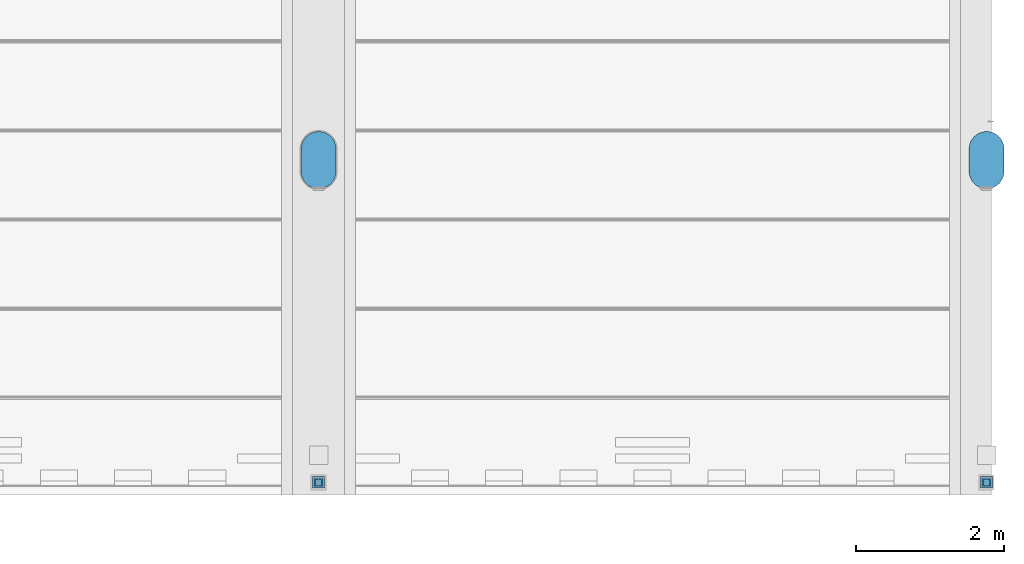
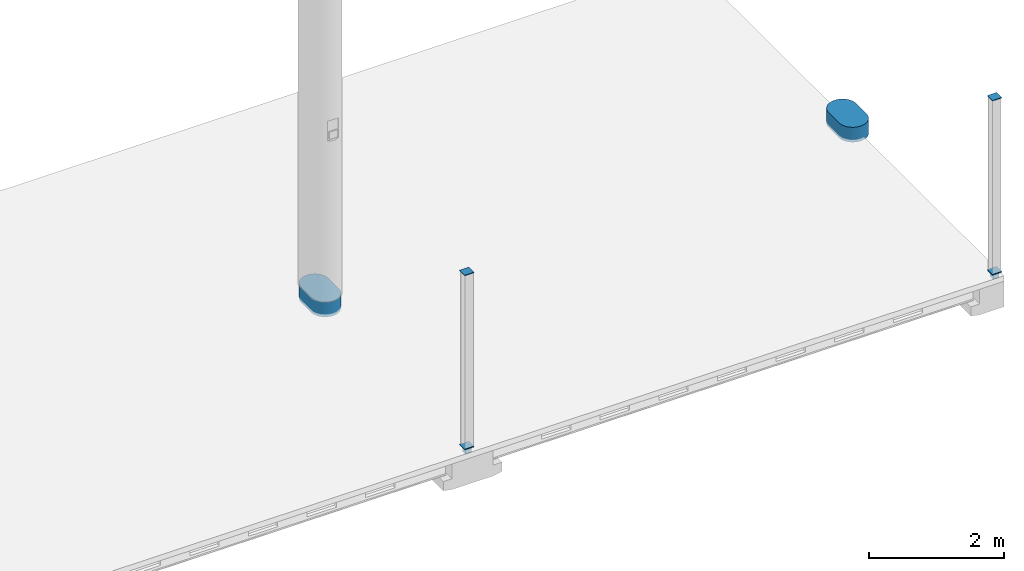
# One storey, part 5 of 15: 8 columns.
"""IFC2X3 building model written with IfcOpenShell, lengths in millimetres."""

from ifc_helpers import new_model, entity, si_unit, converted_unit, derived_unit, direction, frame, origin_with_axes, place, context, subcontext, project, spatial, faceted_brep, material, type_object, element, save


model = new_model("IFC2X3")

# Units and contexts
model_context = context("Model", 3, precision=0.01, world=frame((0.0, 4.29681676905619e-09, 0.0)), true_north=direction((4.01073788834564e-13, 1.0)))
plan_context = context("Plan", 3, precision=0.01, world=frame((0.0, 4.29681676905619e-09, 0.0)), true_north=direction((4.01073788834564e-13, 1.0)))
body_context = subcontext(model_context, "Body", "Model", "MODEL_VIEW")
ifc_project = project(units=[converted_unit("PLANEANGLEUNIT", "DEGREE", entity("IfcPositiveLengthMeasure", 0.0174532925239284), si_unit("PLANEANGLEUNIT", "RADIAN"), dimensions=[0, 0, 0, 0, 0, 0, 0]), si_unit("AREAUNIT", "SQUARE_METRE"), si_unit("LENGTHUNIT", "METRE", prefix="MILLI"), si_unit("MASSUNIT", "GRAM", prefix="KILO"), si_unit("POWERUNIT", "WATT"), si_unit("PRESSUREUNIT", "PASCAL", prefix="KILO"), si_unit("FORCEUNIT", "NEWTON", prefix="KILO"), si_unit("ELECTRICVOLTAGEUNIT", "VOLT"), si_unit("ELECTRICCURRENTUNIT", "AMPERE"), si_unit("THERMODYNAMICTEMPERATUREUNIT", "DEGREE_CELSIUS"), si_unit("TIMEUNIT", "SECOND"), si_unit("VOLUMEUNIT", "CUBIC_METRE"), derived_unit("LINEARVELOCITYUNIT", [(si_unit("LENGTHUNIT", "METRE"), 1), (si_unit("TIMEUNIT", "SECOND"), -1)]), derived_unit("VOLUMETRICFLOWRATEUNIT", [(si_unit("VOLUMEUNIT", "CUBIC_METRE"), 1), (si_unit("TIMEUNIT", "SECOND"), -1)]), derived_unit("THERMALTRANSMITTANCEUNIT", [(si_unit("POWERUNIT", "WATT"), 1), (si_unit("THERMODYNAMICTEMPERATUREUNIT", "KELVIN"), -1), (si_unit("AREAUNIT", "SQUARE_METRE"), -1)]), derived_unit("SOUNDPRESSUREUNIT", [(si_unit("PRESSUREUNIT", "PASCAL"), 1)])], contexts=[model_context, plan_context])

# Site, building, storey
site_placement = place(None, frame((0.0, -4.29681676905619e-09, 0.0), z_axis=(0.0, 0.0, 1.0), x_axis=(1.0, 0.0, 0.0)))
site = spatial("IfcSite", under=ifc_project, at=site_placement, Name="Gardermoen", CompositionType="ELEMENT")
building_placement = place(site_placement, frame((0.0, 4.29681676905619e-09, 0.0), z_axis=(0.0, 0.0, 1.0), x_axis=(1.0, 0.0, 0.0)))
building = spatial("IfcBuilding", under=site, at=building_placement, Name="TG", CompositionType="ELEMENT")
storey_placement = place(building_placement, origin_with_axes())
storey = spatial("IfcBuildingStorey", under=building, at=storey_placement, Name="F", CompositionType="ELEMENT", Elevation=0.0)

# Columns
ifc_material_1 = material(Name="STEEL/S355")
column_type_1 = type_object("IfcColumnType", Name="RHS100*5", PredefinedType="NOTDEFINED")
for number, where, z_axis, x_axis in (
    (1, (349000.0, 458358.0, 210030.0), (0.0, -1.0, 0.0), (0.0, 0.0, 1.0)),
    (2, (340000.0, 458358.0, 210030.0), (0.0, -1.0, 0.0), (0.0, 0.0, 1.0)),
):
    element("IfcColumn", number, at=place(storey_placement, frame(where, z_axis=z_axis, x_axis=x_axis)), inside=storey, type_object=column_type_1, material=ifc_material_1, Name="STÅLSØYLE", ObjectType="RHS100*5", context=body_context, shape_type="Brep", body=[
        faceted_brep([(0.0, 45.0, -45.0), (0.0, -45.0, -45.0), (100.0, -45.0, -45.0), (100.0, 45.0, -45.0), (0.0, -45.0, 45.0), (100.0, -45.0, 45.0), (0.0, 45.0, 45.0), (100.0, 45.0, 45.0), (0.0, 50.0, -50.0), (0.0, 50.0, 50.0), (100.0, 50.0, 50.0), (100.0, 50.0, -50.0), (0.0, -50.0, 50.0), (100.0, -50.0, 50.0), (0.0, -50.0, -50.0), (100.0, -50.0, -50.0)], [[[0, 1, 2, 3]], [[1, 4, 5, 2]], [[4, 6, 7, 5]], [[6, 0, 3, 7]], [[8, 9, 10, 11]], [[9, 12, 13, 10]], [[12, 14, 15, 13]], [[14, 8, 11, 15]], [[13, 15, 11, 10], [5, 7, 3, 2]], [[14, 12, 9, 8], [6, 4, 1, 0]]]),
    ])
ifc_material_2 = material(Name="CONCRETE/C45/55")
column_type_2 = type_object("IfcColumnType", Name="AAJOVAL470*770", PredefinedType="NOTDEFINED")
column_1_placement = place(storey_placement, frame((348999.999766, 462700.004375, 210080.0), z_axis=(0.0, -1.0, 0.0), x_axis=(0.0, 0.0, 1.0)))
element("IfcColumn", 3, at=column_1_placement, inside=storey, type_object=column_type_2, material=ifc_material_2, Name="PREFABSØYLE", ObjectType="AAJOVAL470*770", context=body_context, shape_type="Brep", body=[
    faceted_brep([(0.0, 235.0, 150.0), (0.0, 234.153409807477, 169.929392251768), (270.0, 234.153409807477, 169.929392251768), (270.0, 235.0, 150.0), (0.0, 231.619738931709, 189.715192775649), (270.0, 231.619738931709, 189.715192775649), (0.0, 227.417242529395, 209.2148444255), (270.0, 227.417242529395, 209.2148444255), (0.0, 221.576199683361, 228.287851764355), (270.0, 221.576199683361, 228.287851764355), (0.0, 214.138695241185, 246.796793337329), (270.0, 214.138695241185, 246.796793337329), (0.0, 205.158316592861, 264.608311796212), (270.0, 205.158316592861, 264.608311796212), (0.0, 194.699767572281, 281.594074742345), (270.0, 194.699767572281, 281.594074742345), (0.0, 182.83840226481, 297.631699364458), (270.0, 182.83840226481, 297.631699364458), (0.0, 169.659682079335, 312.6056342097), (270.0, 169.659682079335, 312.6056342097), (0.0, 155.25855999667, 326.407991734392), (270.0, 155.25855999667, 326.407991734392), (0.0, 139.738796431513, 338.939325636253), (270.0, 139.738796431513, 338.939325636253), (0.0, 123.212211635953, 350.10934736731), (270.0, 123.212211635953, 350.10934736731), (0.0, 105.797880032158, 359.837576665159), (270.0, 105.797880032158, 359.837576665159), (0.0, 87.6212722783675, 368.053921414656), (270.0, 87.6212722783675, 368.053921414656), (0.0, 68.8133512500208, 374.699182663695), (270.0, 68.8133512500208, 374.699182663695), (0.0, 49.5096284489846, 379.725481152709), (270.0, 49.5096284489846, 379.725481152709), (0.0, 29.8491876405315, 383.096602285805), (270.0, 29.8491876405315, 383.096602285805), (0.0, 9.9736827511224, 384.78825705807), (270.0, 9.9736827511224, 384.78825705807), (0.0, -9.97368275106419, 384.78825705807), (270.0, -9.97368275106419, 384.78825705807), (0.0, -29.8491876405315, 383.096602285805), (270.0, -29.8491876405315, 383.096602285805), (0.0, -49.5096284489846, 379.725481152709), (270.0, -49.5096284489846, 379.725481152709), (0.0, -68.8133512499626, 374.699182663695), (270.0, -68.8133512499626, 374.699182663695), (0.0, -87.6212722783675, 368.053921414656), (270.0, -87.6212722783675, 368.053921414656), (0.0, -105.797880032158, 359.837576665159), (270.0, -105.797880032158, 359.837576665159), (0.0, -123.212211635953, 350.10934736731), (270.0, -123.212211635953, 350.10934736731), (0.0, -139.738796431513, 338.939325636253), (270.0, -139.738796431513, 338.939325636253), (0.0, -155.25855999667, 326.407991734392), (270.0, -155.25855999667, 326.407991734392), (0.0, -169.659682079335, 312.6056342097), (270.0, -169.659682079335, 312.6056342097), (0.0, -182.83840226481, 297.631699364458), (270.0, -182.83840226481, 297.631699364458), (0.0, -194.699767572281, 281.594074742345), (270.0, -194.699767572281, 281.594074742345), (0.0, -205.158316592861, 264.608311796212), (270.0, -205.158316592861, 264.608311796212), (0.0, -214.138695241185, 246.796793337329), (270.0, -214.138695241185, 246.796793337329), (0.0, -221.576199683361, 228.287851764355), (270.0, -221.576199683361, 228.287851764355), (0.0, -227.417242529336, 209.2148444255), (270.0, -227.417242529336, 209.2148444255), (0.0, -231.619738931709, 189.715192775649), (270.0, -231.619738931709, 189.715192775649), (0.0, -234.153409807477, 169.929392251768), (270.0, -234.153409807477, 169.929392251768), (0.0, -235.0, 150.0), (270.0, -235.0, 150.0), (0.0, -235.0, -150.0), (270.0, -235.0, -150.0), (0.0, -234.153409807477, -169.929392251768), (270.0, -234.153409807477, -169.929392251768), (0.0, -231.619738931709, -189.715192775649), (270.0, -231.619738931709, -189.715192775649), (0.0, -227.417242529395, -209.2148444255), (270.0, -227.417242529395, -209.2148444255), (0.0, -221.576199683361, -228.287851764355), (270.0, -221.576199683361, -228.287851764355), (0.0, -214.138695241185, -246.796793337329), (270.0, -214.138695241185, -246.796793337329), (0.0, -205.158316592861, -264.608311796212), (270.0, -205.158316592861, -264.608311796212), (0.0, -194.699767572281, -281.594074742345), (270.0, -194.699767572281, -281.594074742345), (0.0, -182.83840226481, -297.631699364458), (270.0, -182.83840226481, -297.631699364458), (0.0, -169.659682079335, -312.6056342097), (270.0, -169.659682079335, -312.6056342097), (0.0, -155.25855999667, -326.407991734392), (270.0, -155.25855999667, -326.407991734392), (0.0, -139.738796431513, -338.939325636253), (270.0, -139.738796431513, -338.939325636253), (0.0, -123.212211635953, -350.10934736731), (270.0, -123.212211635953, -350.10934736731), (0.0, -105.797880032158, -359.837576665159), (270.0, -105.797880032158, -359.837576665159), (0.0, -87.6212722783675, -368.053921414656), (270.0, -87.6212722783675, -368.053921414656), (0.0, -68.8133512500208, -374.699182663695), (270.0, -68.8133512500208, -374.699182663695), (0.0, -49.5096284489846, -379.725481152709), (270.0, -49.5096284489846, -379.725481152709), (0.0, -29.8491876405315, -383.096602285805), (270.0, -29.8491876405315, -383.096602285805), (0.0, -9.9736827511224, -384.78825705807), (270.0, -9.9736827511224, -384.78825705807), (0.0, 9.97368275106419, -384.78825705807), (270.0, 9.97368275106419, -384.78825705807), (0.0, 29.8491876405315, -383.096602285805), (270.0, 29.8491876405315, -383.096602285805), (0.0, 49.5096284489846, -379.725481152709), (270.0, 49.5096284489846, -379.725481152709), (0.0, 68.8133512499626, -374.699182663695), (270.0, 68.8133512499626, -374.699182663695), (0.0, 87.6212722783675, -368.053921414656), (270.0, 87.6212722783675, -368.053921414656), (0.0, 105.797880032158, -359.837576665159), (270.0, 105.797880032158, -359.837576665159), (0.0, 123.212211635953, -350.10934736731), (270.0, 123.212211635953, -350.10934736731), (0.0, 139.738796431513, -338.939325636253), (270.0, 139.738796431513, -338.939325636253), (0.0, 155.25855999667, -326.407991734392), (270.0, 155.25855999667, -326.407991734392), (0.0, 169.659682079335, -312.6056342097), (270.0, 169.659682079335, -312.6056342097), (0.0, 182.83840226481, -297.631699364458), (270.0, 182.83840226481, -297.631699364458), (0.0, 194.699767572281, -281.594074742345), (270.0, 194.699767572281, -281.594074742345), (0.0, 205.158316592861, -264.608311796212), (270.0, 205.158316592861, -264.608311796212), (0.0, 214.138695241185, -246.796793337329), (270.0, 214.138695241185, -246.796793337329), (0.0, 221.576199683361, -228.287851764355), (270.0, 221.576199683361, -228.287851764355), (0.0, 227.417242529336, -209.2148444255), (270.0, 227.417242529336, -209.2148444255), (0.0, 231.619738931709, -189.715192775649), (270.0, 231.619738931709, -189.715192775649), (0.0, 234.153409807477, -169.929392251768), (270.0, 234.153409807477, -169.929392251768), (0.0, 235.0, -150.0), (270.0, 235.0, -150.0)], [[[0, 1, 2, 3]], [[1, 4, 5, 2]], [[4, 6, 7, 5]], [[6, 8, 9, 7]], [[8, 10, 11, 9]], [[10, 12, 13, 11]], [[12, 14, 15, 13]], [[14, 16, 17, 15]], [[16, 18, 19, 17]], [[18, 20, 21, 19]], [[20, 22, 23, 21]], [[22, 24, 25, 23]], [[24, 26, 27, 25]], [[26, 28, 29, 27]], [[28, 30, 31, 29]], [[30, 32, 33, 31]], [[32, 34, 35, 33]], [[34, 36, 37, 35]], [[36, 38, 39, 37]], [[38, 40, 41, 39]], [[40, 42, 43, 41]], [[42, 44, 45, 43]], [[44, 46, 47, 45]], [[46, 48, 49, 47]], [[48, 50, 51, 49]], [[50, 52, 53, 51]], [[52, 54, 55, 53]], [[54, 56, 57, 55]], [[56, 58, 59, 57]], [[58, 60, 61, 59]], [[60, 62, 63, 61]], [[62, 64, 65, 63]], [[64, 66, 67, 65]], [[66, 68, 69, 67]], [[68, 70, 71, 69]], [[70, 72, 73, 71]], [[72, 74, 75, 73]], [[74, 76, 77, 75]], [[76, 78, 79, 77]], [[78, 80, 81, 79]], [[80, 82, 83, 81]], [[82, 84, 85, 83]], [[84, 86, 87, 85]], [[86, 88, 89, 87]], [[88, 90, 91, 89]], [[90, 92, 93, 91]], [[92, 94, 95, 93]], [[94, 96, 97, 95]], [[96, 98, 99, 97]], [[98, 100, 101, 99]], [[100, 102, 103, 101]], [[102, 104, 105, 103]], [[104, 106, 107, 105]], [[106, 108, 109, 107]], [[108, 110, 111, 109]], [[110, 112, 113, 111]], [[112, 114, 115, 113]], [[114, 116, 117, 115]], [[116, 118, 119, 117]], [[118, 120, 121, 119]], [[120, 122, 123, 121]], [[122, 124, 125, 123]], [[124, 126, 127, 125]], [[126, 128, 129, 127]], [[128, 130, 131, 129]], [[130, 132, 133, 131]], [[132, 134, 135, 133]], [[134, 136, 137, 135]], [[136, 138, 139, 137]], [[138, 140, 141, 139]], [[140, 142, 143, 141]], [[142, 144, 145, 143]], [[144, 146, 147, 145]], [[146, 148, 149, 147]], [[148, 150, 151, 149]], [[150, 0, 3, 151]], [[5, 7, 9, 11, 13, 15, 17, 19, 21, 23, 25, 27, 29, 31, 33, 35, 37, 39, 41, 43, 45, 47, 49, 51, 53, 55, 57, 59, 61, 63, 65, 67, 69, 71, 73, 75, 77, 79, 81, 83, 85, 87, 89, 91, 93, 95, 97, 99, 101, 103, 105, 107, 109, 111, 113, 115, 117, 119, 121, 123, 125, 127, 129, 131, 133, 135, 137, 139, 141, 143, 145, 147, 149, 151, 3, 2]], [[150, 148, 146, 144, 142, 140, 138, 136, 134, 132, 130, 128, 126, 124, 122, 120, 118, 116, 114, 112, 110, 108, 106, 104, 102, 100, 98, 96, 94, 92, 90, 88, 86, 84, 82, 80, 78, 76, 74, 72, 70, 68, 66, 64, 62, 60, 58, 56, 54, 52, 50, 48, 46, 44, 42, 40, 38, 36, 34, 32, 30, 28, 26, 24, 22, 20, 18, 16, 14, 12, 10, 8, 6, 4, 1, 0]]]),
])
column_2_placement = place(storey_placement, frame((339999.999766, 462700.004375, 210080.0), z_axis=(0.0, -1.0, 0.0), x_axis=(0.0, 0.0, 1.0)))
element("IfcColumn", 4, at=column_2_placement, inside=storey, type_object=column_type_2, material=ifc_material_2, Name="PREFABSØYLE", ObjectType="AAJOVAL470*770", context=body_context, shape_type="Brep", body=[
    faceted_brep([(0.0, 235.0, 150.0), (0.0, 234.153409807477, 169.929392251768), (270.0, 234.153409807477, 169.929392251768), (270.0, 235.0, 150.0), (0.0, 231.619738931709, 189.715192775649), (270.0, 231.619738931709, 189.715192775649), (0.0, 227.417242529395, 209.2148444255), (270.0, 227.417242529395, 209.2148444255), (0.0, 221.576199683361, 228.287851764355), (270.0, 221.576199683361, 228.287851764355), (0.0, 214.138695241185, 246.796793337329), (270.0, 214.138695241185, 246.796793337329), (0.0, 205.158316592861, 264.608311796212), (270.0, 205.158316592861, 264.608311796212), (0.0, 194.699767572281, 281.594074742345), (270.0, 194.699767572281, 281.594074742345), (0.0, 182.83840226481, 297.631699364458), (270.0, 182.83840226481, 297.631699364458), (0.0, 169.659682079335, 312.6056342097), (270.0, 169.659682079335, 312.6056342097), (0.0, 155.25855999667, 326.407991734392), (270.0, 155.25855999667, 326.407991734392), (0.0, 139.738796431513, 338.939325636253), (270.0, 139.738796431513, 338.939325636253), (0.0, 123.212211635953, 350.10934736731), (270.0, 123.212211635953, 350.10934736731), (0.0, 105.797880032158, 359.837576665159), (270.0, 105.797880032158, 359.837576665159), (0.0, 87.6212722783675, 368.053921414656), (270.0, 87.6212722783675, 368.053921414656), (0.0, 68.8133512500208, 374.699182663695), (270.0, 68.8133512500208, 374.699182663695), (0.0, 49.5096284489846, 379.725481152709), (270.0, 49.5096284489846, 379.725481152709), (0.0, 29.8491876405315, 383.096602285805), (270.0, 29.8491876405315, 383.096602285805), (0.0, 9.9736827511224, 384.78825705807), (270.0, 9.9736827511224, 384.78825705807), (0.0, -9.97368275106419, 384.78825705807), (270.0, -9.97368275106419, 384.78825705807), (0.0, -29.8491876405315, 383.096602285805), (270.0, -29.8491876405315, 383.096602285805), (0.0, -49.5096284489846, 379.725481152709), (270.0, -49.5096284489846, 379.725481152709), (0.0, -68.8133512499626, 374.699182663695), (270.0, -68.8133512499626, 374.699182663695), (0.0, -87.6212722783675, 368.053921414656), (270.0, -87.6212722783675, 368.053921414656), (0.0, -105.797880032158, 359.837576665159), (270.0, -105.797880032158, 359.837576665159), (0.0, -123.212211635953, 350.10934736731), (270.0, -123.212211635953, 350.10934736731), (0.0, -139.738796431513, 338.939325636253), (270.0, -139.738796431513, 338.939325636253), (0.0, -155.25855999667, 326.407991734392), (270.0, -155.25855999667, 326.407991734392), (0.0, -169.659682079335, 312.6056342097), (270.0, -169.659682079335, 312.6056342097), (0.0, -182.83840226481, 297.631699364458), (270.0, -182.83840226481, 297.631699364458), (0.0, -194.699767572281, 281.594074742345), (270.0, -194.699767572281, 281.594074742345), (0.0, -205.158316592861, 264.608311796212), (270.0, -205.158316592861, 264.608311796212), (0.0, -214.138695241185, 246.796793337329), (270.0, -214.138695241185, 246.796793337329), (0.0, -221.576199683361, 228.287851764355), (270.0, -221.576199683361, 228.287851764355), (0.0, -227.417242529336, 209.2148444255), (270.0, -227.417242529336, 209.2148444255), (0.0, -231.619738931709, 189.715192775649), (270.0, -231.619738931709, 189.715192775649), (0.0, -234.153409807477, 169.929392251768), (270.0, -234.153409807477, 169.929392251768), (0.0, -235.0, 150.0), (270.0, -235.0, 150.0), (0.0, -235.0, -150.0), (270.0, -235.0, -150.0), (0.0, -234.153409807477, -169.929392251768), (270.0, -234.153409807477, -169.929392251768), (0.0, -231.619738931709, -189.715192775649), (270.0, -231.619738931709, -189.715192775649), (0.0, -227.417242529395, -209.2148444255), (270.0, -227.417242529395, -209.2148444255), (0.0, -221.576199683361, -228.287851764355), (270.0, -221.576199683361, -228.287851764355), (0.0, -214.138695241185, -246.796793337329), (270.0, -214.138695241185, -246.796793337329), (0.0, -205.158316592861, -264.608311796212), (270.0, -205.158316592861, -264.608311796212), (0.0, -194.699767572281, -281.594074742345), (270.0, -194.699767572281, -281.594074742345), (0.0, -182.83840226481, -297.631699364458), (270.0, -182.83840226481, -297.631699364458), (0.0, -169.659682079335, -312.6056342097), (270.0, -169.659682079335, -312.6056342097), (0.0, -155.25855999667, -326.407991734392), (270.0, -155.25855999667, -326.407991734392), (0.0, -139.738796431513, -338.939325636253), (270.0, -139.738796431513, -338.939325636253), (0.0, -123.212211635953, -350.10934736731), (270.0, -123.212211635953, -350.10934736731), (0.0, -105.797880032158, -359.837576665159), (270.0, -105.797880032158, -359.837576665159), (0.0, -87.6212722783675, -368.053921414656), (270.0, -87.6212722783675, -368.053921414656), (0.0, -68.8133512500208, -374.699182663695), (270.0, -68.8133512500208, -374.699182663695), (0.0, -49.5096284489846, -379.725481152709), (270.0, -49.5096284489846, -379.725481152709), (0.0, -29.8491876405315, -383.096602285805), (270.0, -29.8491876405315, -383.096602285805), (0.0, -9.9736827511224, -384.78825705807), (270.0, -9.9736827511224, -384.78825705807), (0.0, 9.97368275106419, -384.78825705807), (270.0, 9.97368275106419, -384.78825705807), (0.0, 29.8491876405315, -383.096602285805), (270.0, 29.8491876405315, -383.096602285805), (0.0, 49.5096284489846, -379.725481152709), (270.0, 49.5096284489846, -379.725481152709), (0.0, 68.8133512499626, -374.699182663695), (270.0, 68.8133512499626, -374.699182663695), (0.0, 87.6212722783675, -368.053921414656), (270.0, 87.6212722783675, -368.053921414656), (0.0, 105.797880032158, -359.837576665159), (270.0, 105.797880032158, -359.837576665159), (0.0, 123.212211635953, -350.10934736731), (270.0, 123.212211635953, -350.10934736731), (0.0, 139.738796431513, -338.939325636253), (270.0, 139.738796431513, -338.939325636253), (0.0, 155.25855999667, -326.407991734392), (270.0, 155.25855999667, -326.407991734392), (0.0, 169.659682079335, -312.6056342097), (270.0, 169.659682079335, -312.6056342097), (0.0, 182.83840226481, -297.631699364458), (270.0, 182.83840226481, -297.631699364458), (0.0, 194.699767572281, -281.594074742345), (270.0, 194.699767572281, -281.594074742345), (0.0, 205.158316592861, -264.608311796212), (270.0, 205.158316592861, -264.608311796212), (0.0, 214.138695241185, -246.796793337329), (270.0, 214.138695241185, -246.796793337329), (0.0, 221.576199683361, -228.287851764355), (270.0, 221.576199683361, -228.287851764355), (0.0, 227.417242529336, -209.2148444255), (270.0, 227.417242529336, -209.2148444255), (0.0, 231.619738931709, -189.715192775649), (270.0, 231.619738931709, -189.715192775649), (0.0, 234.153409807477, -169.929392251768), (270.0, 234.153409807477, -169.929392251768), (0.0, 235.0, -150.0), (270.0, 235.0, -150.0)], [[[0, 1, 2, 3]], [[1, 4, 5, 2]], [[4, 6, 7, 5]], [[6, 8, 9, 7]], [[8, 10, 11, 9]], [[10, 12, 13, 11]], [[12, 14, 15, 13]], [[14, 16, 17, 15]], [[16, 18, 19, 17]], [[18, 20, 21, 19]], [[20, 22, 23, 21]], [[22, 24, 25, 23]], [[24, 26, 27, 25]], [[26, 28, 29, 27]], [[28, 30, 31, 29]], [[30, 32, 33, 31]], [[32, 34, 35, 33]], [[34, 36, 37, 35]], [[36, 38, 39, 37]], [[38, 40, 41, 39]], [[40, 42, 43, 41]], [[42, 44, 45, 43]], [[44, 46, 47, 45]], [[46, 48, 49, 47]], [[48, 50, 51, 49]], [[50, 52, 53, 51]], [[52, 54, 55, 53]], [[54, 56, 57, 55]], [[56, 58, 59, 57]], [[58, 60, 61, 59]], [[60, 62, 63, 61]], [[62, 64, 65, 63]], [[64, 66, 67, 65]], [[66, 68, 69, 67]], [[68, 70, 71, 69]], [[70, 72, 73, 71]], [[72, 74, 75, 73]], [[74, 76, 77, 75]], [[76, 78, 79, 77]], [[78, 80, 81, 79]], [[80, 82, 83, 81]], [[82, 84, 85, 83]], [[84, 86, 87, 85]], [[86, 88, 89, 87]], [[88, 90, 91, 89]], [[90, 92, 93, 91]], [[92, 94, 95, 93]], [[94, 96, 97, 95]], [[96, 98, 99, 97]], [[98, 100, 101, 99]], [[100, 102, 103, 101]], [[102, 104, 105, 103]], [[104, 106, 107, 105]], [[106, 108, 109, 107]], [[108, 110, 111, 109]], [[110, 112, 113, 111]], [[112, 114, 115, 113]], [[114, 116, 117, 115]], [[116, 118, 119, 117]], [[118, 120, 121, 119]], [[120, 122, 123, 121]], [[122, 124, 125, 123]], [[124, 126, 127, 125]], [[126, 128, 129, 127]], [[128, 130, 131, 129]], [[130, 132, 133, 131]], [[132, 134, 135, 133]], [[134, 136, 137, 135]], [[136, 138, 139, 137]], [[138, 140, 141, 139]], [[140, 142, 143, 141]], [[142, 144, 145, 143]], [[144, 146, 147, 145]], [[146, 148, 149, 147]], [[148, 150, 151, 149]], [[150, 0, 3, 151]], [[5, 7, 9, 11, 13, 15, 17, 19, 21, 23, 25, 27, 29, 31, 33, 35, 37, 39, 41, 43, 45, 47, 49, 51, 53, 55, 57, 59, 61, 63, 65, 67, 69, 71, 73, 75, 77, 79, 81, 83, 85, 87, 89, 91, 93, 95, 97, 99, 101, 103, 105, 107, 109, 111, 113, 115, 117, 119, 121, 123, 125, 127, 129, 131, 133, 135, 137, 139, 141, 143, 145, 147, 149, 151, 3, 2]], [[150, 148, 146, 144, 142, 140, 138, 136, 134, 132, 130, 128, 126, 124, 122, 120, 118, 116, 114, 112, 110, 108, 106, 104, 102, 100, 98, 96, 94, 92, 90, 88, 86, 84, 82, 80, 78, 76, 74, 72, 70, 68, 66, 64, 62, 60, 58, 56, 54, 52, 50, 48, 46, 44, 42, 40, 38, 36, 34, 32, 30, 28, 26, 24, 22, 20, 18, 16, 14, 12, 10, 8, 6, 4, 1, 0]]]),
])
ifc_material_3 = material(Name="STEEL/S355J0")
column_type_3 = type_object("IfcColumnType", Name="PL10*160", PredefinedType="NOTDEFINED")
for number, where, z_axis, x_axis in (
    (5, (349000.0, 458434.5, 213278.0), (-1.0, 0.0, 0.0), (0.0, -1.0, 0.0)),
    (6, (340000.0, 458434.5, 213278.0), (-1.0, 0.0, 0.0), (0.0, -1.0, 0.0)),
):
    element("IfcColumn", number, at=place(storey_placement, frame(where, z_axis=z_axis, x_axis=x_axis)), inside=storey, type_object=column_type_3, material=ifc_material_3, Name="STÅLSØYLE", ObjectType="PL10*160", context=body_context, shape_type="Brep", body=[
        faceted_brep([(0.0, 5.0, -80.0), (0.0, 5.0, 80.0), (153.0, 5.0, 80.0), (153.0, 5.0, -80.0), (0.0, -5.0, 80.0), (153.0, -5.0, 80.0), (0.0, -5.0, -80.0), (153.0, -5.0, -80.0)], [[[0, 1, 2, 3]], [[1, 4, 5, 2]], [[4, 6, 7, 5]], [[6, 0, 3, 7]], [[5, 7, 3, 2]], [[6, 4, 1, 0]]]),
    ])
column_type_4 = type_object("IfcColumnType", Name="PL15*160", PredefinedType="NOTDEFINED")
for number, where, z_axis, x_axis in (
    (7, (349000.0, 458434.5, 210137.5), (1.0, 0.0, 0.0), (0.0, -1.0, 0.0)),
    (8, (340000.0, 458434.5, 210137.5), (1.0, 0.0, 0.0), (0.0, -1.0, 0.0)),
):
    element("IfcColumn", number, at=place(storey_placement, frame(where, z_axis=z_axis, x_axis=x_axis)), inside=storey, type_object=column_type_4, material=ifc_material_3, Name="STÅLSØYLE", ObjectType="PL15*160", context=body_context, shape_type="Brep", body=[
        faceted_brep([(0.0, 7.5, -80.0), (0.0, 7.5, 80.0), (153.0, 7.5, 80.0), (153.0, 7.5, -80.0), (0.0, -7.5, 80.0), (153.0, -7.5, 80.0), (0.0, -7.5, -80.0), (153.0, -7.5, -80.0)], [[[0, 1, 2, 3]], [[1, 4, 5, 2]], [[4, 6, 7, 5]], [[6, 0, 3, 7]], [[5, 7, 3, 2]], [[6, 4, 1, 0]]]),
    ])

save(model, "model.ifc")
